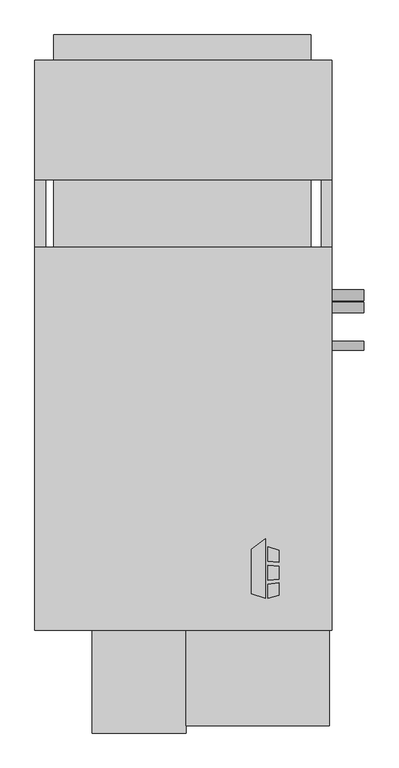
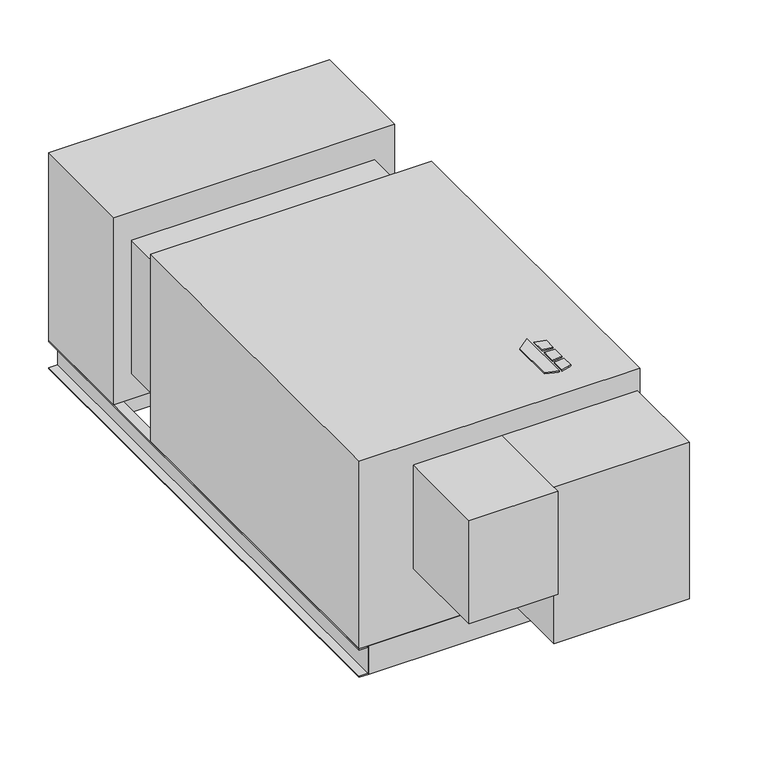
"""IFC4 building model written with IfcOpenShell, lengths in millimetres: proxy geometry, Horizontal_Direct_Drive_Blower_Coil_Unit_-_HDY_-_IEC_-_2-Pipe_Cool-EHeat_NFilterR_W-MixingBox_RH_2022 : Size 06 - 460v/60Hz/3Ph - 8 Row 6.0kW LH."""

from ifc_helpers import new_model, si_unit, point, frame, frame_2d, origin, origin_with_axes, place, context, project, spatial, polyline, circle_curve, trimmed, segment, composite_curve, outline, extrude, source, transform, mapped, element, save


def mechanical_equipment_6d997ccb(model_context):
    return source(origin(), model_context, "Body", "SweptSolid", [
        extrude(outline(polyline([(-547.9980239, -229.5578476), (-515.4397272, -204.1205184), (-515.4397272, -346.075), (-547.9980239, -335.8554201), (-547.9980239, -229.5578476)])), origin_with_axes(), (0.0, 0.0, 1.0), 3.175),
        extrude(outline(polyline([(-508.6813942, -257.429852), (-508.6813942, -222.9499379), (-482.6, -231.1365115), (-482.6, -260.6322446), (-508.6813942, -257.429852)])), origin_with_axes(), (0.0, 0.0, 1.0), 3.175),
        extrude(outline(polyline([(-482.6, -339.0865115), (-508.6813942, -346.075), (-508.6813942, -312.8536996), (-482.6, -309.3118564), (-482.6, -339.0865115)])), origin_with_axes(), (0.0, 0.0, 1.0), 3.175),
        extrude(outline(polyline([(-482.6, -269.7138277), (-482.6, -300.963983), (-508.6813942, -303.705248), (-508.6813942, -267.8475378), (-482.6, -269.7138277)])), origin_with_axes(), (0.0, 0.0, 1.0), 3.175),
        extrude(outline(polyline([(-406.4, 837.565), (-406.4, 685.165), (-1022.35, 685.165), (-1022.35, 837.565), (-406.4, 837.565)])), frame((0.0, 0.0, -562.61), z_axis=(0.0, 0.0, 1.0), x_axis=(1.0, 0.0, 0.0)), (0.0, 0.0, 1.0), 60.96),
        extrude(outline(polyline([(-1022.35, 1000.125), (-406.4, 1000.125), (-406.4, 939.165), (-1022.35, 939.165), (-1022.35, 1000.125)])), frame((0.0, 0.0, -228.6), z_axis=(0.0, 0.0, 1.0), x_axis=(1.0, 0.0, 0.0)), (0.0, 0.0, 1.0), 152.4),
        extrude(outline(polyline([(-355.6, 939.165), (-355.6, 654.05), (-1066.8, 654.05), (-1066.8, 939.165), (-355.6, 939.165)])), frame((0.0, 0.0, -501.65), z_axis=(0.0, 0.0, 1.0), x_axis=(1.0, 0.0, 0.0)), (0.0, 0.0, 1.0), 501.65),
        extrude(outline(polyline([(-381.0, -396.875), (-381.0, -422.275), (-1041.4, -422.275), (-1041.4, -396.875), (-381.0, -396.875)])), frame((0.0, 0.0, -577.85), z_axis=(0.0, 0.0, 1.0), x_axis=(1.0, 0.0, 0.0)), (0.0, 0.0, 1.0), 76.2),
        extrude(outline(polyline([(-381.0, 939.165), (-381.0, 913.765), (-1041.4, 913.765), (-1041.4, 939.165), (-381.0, 939.165)])), frame((0.0, 0.0, -577.85), z_axis=(0.0, 0.0, 1.0), x_axis=(1.0, 0.0, 0.0)), (0.0, 0.0, 1.0), 76.2),
        extrude(outline(polyline([(-501.65, -1041.4), (-501.65, -1066.8), (-504.825, -1066.8), (-504.825, -1044.575), (-574.675, -1044.575), (-574.675, -1066.8), (-577.85, -1066.8), (-577.85, -1041.4), (-501.65, -1041.4)])), frame((0.0, -422.275, 0.0), z_axis=(0.0, 1.0, 0.0), x_axis=(0.0, 0.0, 1.0)), (0.0, 0.0, 1.0), 1361.44),
        extrude(outline(polyline([(-501.65, -381.0), (-577.85, -381.0), (-577.85, -355.6), (-574.675, -355.6), (-574.675, -377.825), (-504.825, -377.825), (-504.825, -355.6), (-501.65, -355.6), (-501.65, -381.0)])), frame((0.0, -422.275, 0.0), z_axis=(0.0, 1.0, 0.0), x_axis=(0.0, 0.0, 1.0)), (0.0, 0.0, 1.0), 1361.44),
        extrude(outline(composite_curve([segment(trimmed(circle_curve(frame_2d((377.825, -177.8)), 12.7), [point((390.525, -177.8))], [point((365.125, -177.8))], False, "CARTESIAN"), True, "CONTINUOUS"), segment(trimmed(circle_curve(frame_2d((377.825, -177.8)), 12.7), [point((365.125, -177.8))], [point((390.525, -177.8))], False, "CARTESIAN"), True, "CONTINUOUS")], self_intersect=False)), frame((-355.6, 0.0, 0.0), z_axis=(1.0, 0.0, 0.0), x_axis=(0.0, 1.0, 0.0)), (0.0, 0.0, 1.0), 76.2),
        extrude(outline(composite_curve([segment(trimmed(circle_curve(frame_2d((348.9715397, -374.65)), 12.7), [point((361.6715397, -374.65))], [point((336.2715397, -374.65))], False, "CARTESIAN"), True, "CONTINUOUS"), segment(trimmed(circle_curve(frame_2d((348.9715397, -374.65)), 12.7), [point((336.2715397, -374.65))], [point((361.6715397, -374.65))], False, "CARTESIAN"), True, "CONTINUOUS")], self_intersect=False)), frame((-355.6, 0.0, 0.0), z_axis=(1.0, 0.0, 0.0), x_axis=(0.0, 1.0, 0.0)), (0.0, 0.0, 1.0), 76.2),
        extrude(outline(composite_curve([segment(trimmed(circle_curve(frame_2d((257.175, -457.2)), 11.1125), [point((268.2875, -457.2))], [point((246.0625, -457.2))], False, "CARTESIAN"), True, "CONTINUOUS"), segment(trimmed(circle_curve(frame_2d((257.175, -457.2)), 11.1125), [point((246.0625, -457.2))], [point((268.2875, -457.2))], False, "CARTESIAN"), True, "CONTINUOUS")], self_intersect=False)), frame((-355.6, 0.0, 0.0), z_axis=(1.0, 0.0, 0.0), x_axis=(0.0, 1.0, 0.0)), (0.0, 0.0, 1.0), 76.2),
        extrude(outline(polyline([(-355.6, 492.125), (-355.6, -422.275), (-1066.8, -422.275), (-1066.8, 492.125), (-355.6, 492.125)])), frame((0.0, 0.0, -501.65), z_axis=(0.0, 0.0, 1.0), x_axis=(1.0, 0.0, 0.0)), (0.0, 0.0, 1.0), 501.65),
        extrude(outline(polyline([(-361.95, -650.875), (-704.85, -650.875), (-704.85, -422.275), (-361.95, -422.275), (-361.95, -650.875)])), frame((0.0, 0.0, -476.25), z_axis=(0.0, 0.0, 1.0), x_axis=(1.0, 0.0, 0.0)), (0.0, 0.0, 1.0), 419.1),
        extrude(outline(polyline([(-1022.35, 654.05), (-406.4, 654.05), (-406.4, 492.125), (-1022.35, 492.125), (-1022.35, 654.05)])), frame((0.0, 0.0, -431.8), z_axis=(0.0, 0.0, 1.0), x_axis=(1.0, 0.0, 0.0)), (0.0, 0.0, 1.0), 355.6),
        extrude(outline(polyline([(-704.85, -668.3375), (-930.275, -668.3375), (-930.275, -422.275), (-704.85, -422.275), (-704.85, -668.3375)])), frame((0.0, 0.0, -333.375), z_axis=(0.0, 0.0, 1.0), x_axis=(1.0, 0.0, 0.0)), (0.0, 0.0, 1.0), 276.225),
    ])


if __name__ == "__main__":
    model = new_model("IFC4")
    model_context = context("Model", 3, world=origin())
    ifc_project = project(units=[si_unit("LENGTHUNIT", "METRE", prefix="MILLI")], contexts=[model_context])
    site = spatial("IfcSite", under=ifc_project)
    building = spatial("IfcBuilding", under=site)
    placement = place(None, origin())
    mechanical_equipment_shape = mechanical_equipment_6d997ccb(model_context)
    element("IfcBuildingElementProxy", 1, Name="Horizontal_Direct_Drive_Blower_Coil_Unit_-_HDY_-_IEC_-_2-Pipe_Cool-EHeat_NFilterR_W-MixingBox_RH_2022 : Size 06 - 460v/60Hz/3Ph - 8 Row 6.0kW LH", ObjectType="Horizontal_Direct_Drive_Blower_Coil_Unit_-_HDY_-_IEC_-_2-Pipe_Cool-EHeat_NFilterR_W-MixingBox_RH_2022 : Size 06 - 460v/60Hz/3Ph - 8 Row 6.0kW LH", at=placement, inside=building, context=model_context, shape_type="MappedRepresentation", body=[
        mapped(mechanical_equipment_shape, transform((0.0, 0.0, 0.0), x_axis=(1.0, 0.0, 0.0), y_axis=(0.0, 1.0, 0.0), z_axis=(0.0, 0.0, 1.0))),
    ])
    save(model, "model.ifc")
